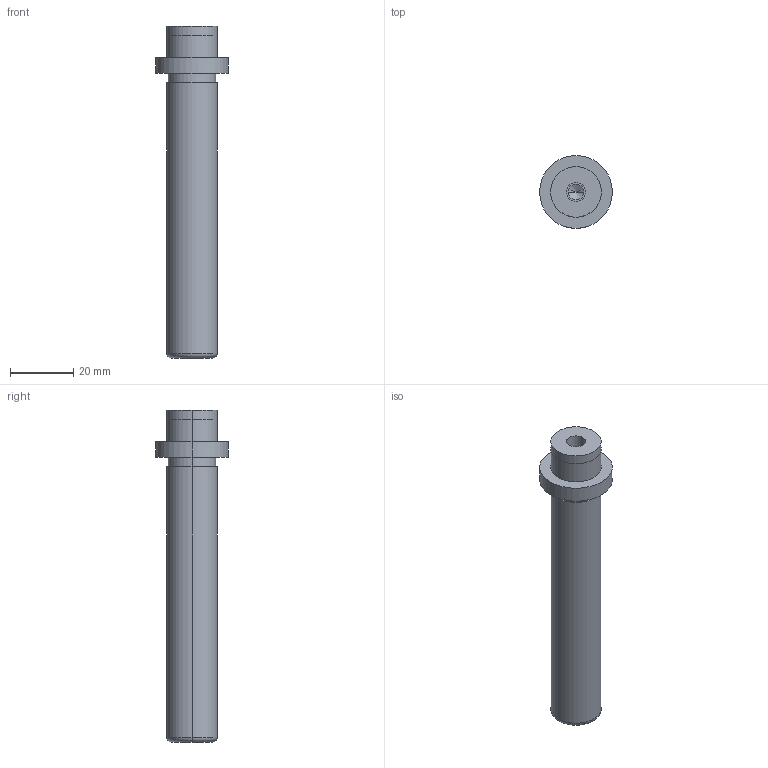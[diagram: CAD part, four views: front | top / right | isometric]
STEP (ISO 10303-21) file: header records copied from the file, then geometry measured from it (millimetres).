
FILE_DESCRIPTION(/* description */ (''),/* implementation_level */ '2;1');
FILE_NAME(/* name */ '3d_sgpw16-95_05284_r00.stp',/* time_stamp */ '2011-01-10T14:11:04+09:00',/* author */ ('MISUMI'),/* organization */ (''),/* preprocessor_version */ 'ST-DEVELOPER v11',/* originating_system */ 'UGS - NX 5.0',/* authorisation */ '');
FILE_SCHEMA (('CONFIG_CONTROL_DESIGN'));
Length unit declared in the file: millimetre
Products named in the file (1): 3d_sgpw16-95_05284_r00
Bounding box: 23 x 23 x 105 mm (x, y, z)
Volume: 21283 mm3; surface area: 6764.8 mm2
Topology: 1 solids, 1 shells, 31 faces, 64 edges, 38 vertices
Faces by surface type: cylinder 18, plane 7, cone 4, torus 2
Entity records: 890 total; most frequent: DIRECTION 162, CARTESIAN_POINT 130, ORIENTED_EDGE 120, AXIS2_PLACEMENT_3D 70, EDGE_CURVE 60, EDGE_LOOP 38, CIRCLE 38, VERTEX_POINT 38
